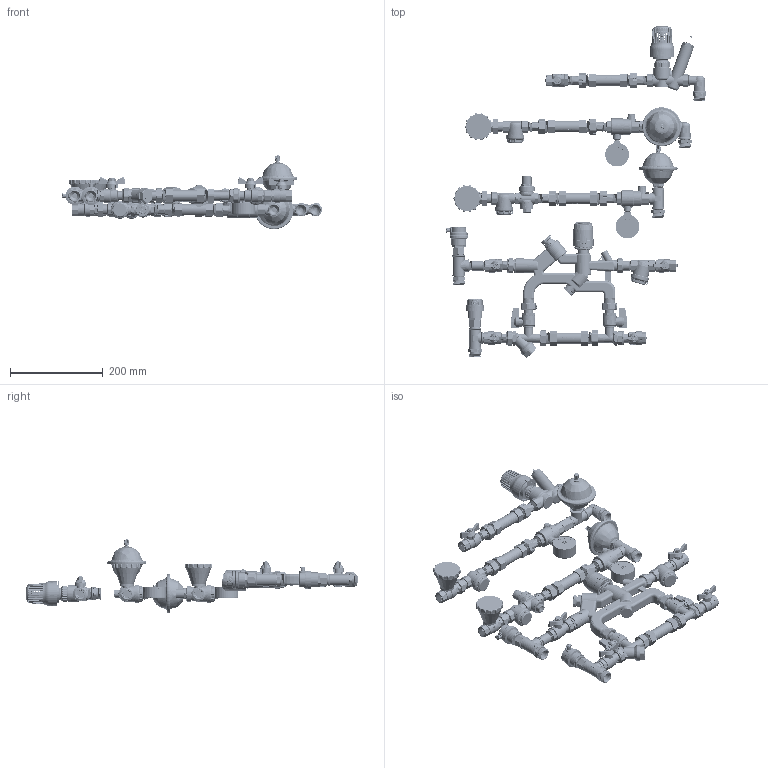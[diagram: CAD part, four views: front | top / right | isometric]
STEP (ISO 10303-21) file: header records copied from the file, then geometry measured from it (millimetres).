
FILE_DESCRIPTION(/* description */ (''),/* implementation_level */ '2;1');
FILE_NAME(/* name */ 'C:\Users\almis\Downloads\VT.NM.FR.04.00.stp',/* time_stamp */ '2020-04-07T11:06:53+03:00',/* author */ ('BeN_GaN'),/* organization */ (''),/* preprocessor_version */ 'ST-DEVELOPER v18',/* originating_system */ 'Autodesk Inventor 2020',/* authorisation */ '');
FILE_SCHEMA (('AUTOMOTIVE_DESIGN { 1 0 10303 214 3 1 1 }'));
Products named in the file (35): VT.NM.F; Сборка0; Деталь1; Деталь2; Деталь3; Деталь4; Деталь5; VT.241.N.0405; VT.241.N.0405_02; VTr.613.04; VT.386.N.04; VT.215_ ВН_1%2; VTr.652.N.0406; Труба_025; VT.539.N; VT.502.NH.04_1; VT.TE3041; Деталь6; VT.387.N.04; VT.086.04; VTr.132.N.0004; VT.214_ВВ_1%2; VTr.728.N.0004; VT.171.N.04; VT.TM50.D_04; VTr.134.N.0004; VT.CAR19.I; VT.388.N.04; VTr.197.N.0430; VT.214_ВВ_1%2_1; VTr.611.N.0004; VT.348.N.04; VTr.092.N.0002; VTr.580.NE.040E; VTp.789.110.05
Assembly tree (61 placements, depth 3):
  VT.NM.F
    Сборка0
      Деталь1
      Деталь2
      Деталь3
      Деталь4  x2
      Деталь5  x2
    VTp.789.110.05  x4
    VT.241.N.0405  x3
    VT.241.N.0405_02  x3
    VTr.613.04
    VT.386.N.04
    VT.215_ ВН_1%2
    VTr.652.N.0406
    Труба_025
    VT.539.N  x2
    VT.502.NH.04_1  x2
    VTr.580.NE.040E  x5
    VTr.132.N.0004  x2
    VT.TE3041
    Деталь6
    VT.214_ВВ_1%2  x2
    VTr.728.N.0004  x2
    VT.387.N.04
    VT.086.04
    VTr.611.N.0004  x6
    VT.171.N.04  x2
    VT.TM50.D_04  x2
    VT.CAR19.I  x2
    VTr.134.N.0004
    VTr.092.N.0002  x2
    VT.388.N.04
    VTr.197.N.0430
    VT.214_ВВ_1%2_1
    VT.348.N.04
Bounding box: 563.39 x 716.69 x 160.5 mm (x, y, z)
Volume: 1794476 mm3; surface area: 975396.3 mm2
Topology: 86 solids, 114 shells, 22311 faces, 58606 edges, 37662 vertices
Faces by surface type: plane 7853, cylinder 6052, bspline 5538, torus 1456, cone 1193, sphere 219
Full cylindrical faces by diameter (mm): 1 x2, 1.5 x6, 2 x16, 2.5 x3, 3 x4, 3.2 x1, 3.464 x2, 3.5 x2, 4 x15, 4.1 x1, 4.5 x45, 4.9 x2, 5 x11, 5.5 x48, 5.8 x1, 6 x3, 6.5 x72, 6.534 x3, 6.6 x4, 6.7 x4, 7 x2, 7.4 x1, 7.5 x37, 7.6 x22, 7.8 x1, 7.953 x2, 8 x38, 8.3 x27, 8.5 x4, 9 x24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
Entity records: 704988 total; most frequent: CARTESIAN_POINT 374188, ORIENTED_EDGE 75038, DIRECTION 59279, EDGE_CURVE 37519, VERTEX_POINT 24166, AXIS2_PLACEMENT_3D 22245, EDGE_LOOP 15511, LINE 14789
